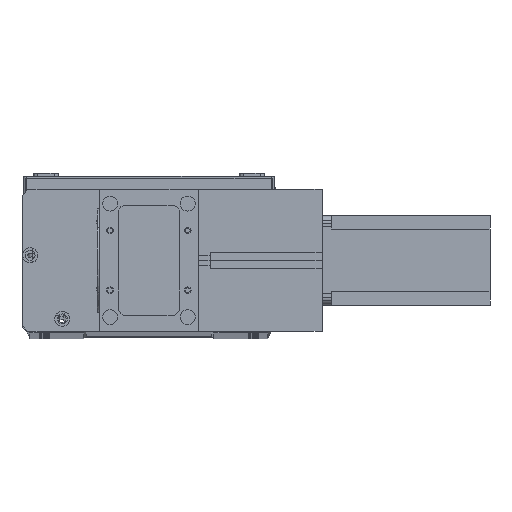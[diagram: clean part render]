
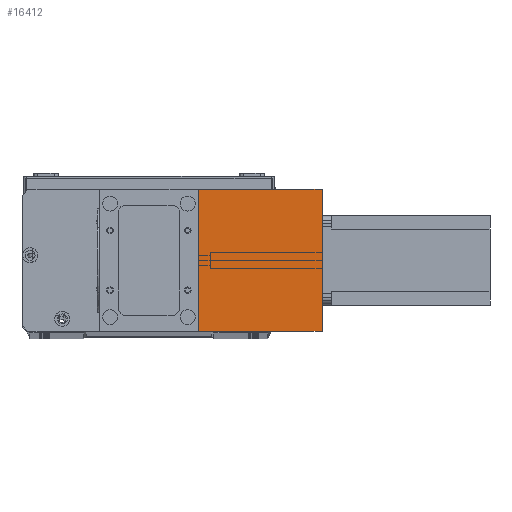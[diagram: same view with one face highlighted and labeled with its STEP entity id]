
A CAD part, top view. The second image highlights one B-rep face of the part: STEP entity #16412.
In plain terms, the highlighted planar face has unit normal (0, 0, 1) as drawn and (1, 0, 0) by its records, which use the part's own axes.
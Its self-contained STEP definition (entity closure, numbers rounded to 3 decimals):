
#1192 = CARTESIAN_POINT ( 'NONE',  ( 82., 95., 83. ) ) ;
#2100 = CARTESIAN_POINT ( 'NONE',  ( 82., 95., 0. ) ) ;
#2810 = ORIENTED_EDGE ( 'NONE', *, *, #8261, .F. ) ;
#2896 = EDGE_LOOP ( 'NONE', ( #28623, #14635, #2810, #16192 ) ) ;
#3169 = DIRECTION ( 'NONE',  ( 0., 0., 1. ) ) ;
#4116 = VECTOR ( 'NONE', #29217, 1000. ) ;
#4671 = LINE ( 'NONE', #15749, #10180 ) ;
#5082 = EDGE_CURVE ( 'NONE', #27960, #20199, #16516, .T. ) ;
#5859 = FACE_OUTER_BOUND ( 'NONE', #2896, .T. ) ;
#6231 = LINE ( 'NONE', #25209, #17137 ) ;
#6747 = VERTEX_POINT ( 'NONE', #1192 ) ;
#7616 = LINE ( 'NONE', #22341, #25210 ) ;
#8121 = EDGE_CURVE ( 'NONE', #6747, #20470, #7616, .T. ) ;
#8261 = EDGE_CURVE ( 'NONE', #27960, #6747, #4671, .T. ) ;
#9257 = AXIS2_PLACEMENT_3D ( 'NONE', #14791, #17143, #3169 ) ;
#10180 = VECTOR ( 'NONE', #15906, 1000. ) ;
#14635 = ORIENTED_EDGE ( 'NONE', *, *, #8121, .F. ) ;
#14791 = CARTESIAN_POINT ( 'NONE',  ( 82., 0., 83. ) ) ;
#14934 = CARTESIAN_POINT ( 'NONE',  ( 82., 0., 0. ) ) ;
#15661 = CARTESIAN_POINT ( 'NONE',  ( 82., 0., 83. ) ) ;
#15749 = CARTESIAN_POINT ( 'NONE',  ( 82., 0., 83. ) ) ;
#15906 = DIRECTION ( 'NONE',  ( 0., 1., 0. ) ) ;
#16192 = ORIENTED_EDGE ( 'NONE', *, *, #5082, .T. ) ;
#16412 = ADVANCED_FACE ( 'NONE', ( #5859 ), #28449, .F. ) ;
#16516 = LINE ( 'NONE', #29505, #4116 ) ;
#16791 = EDGE_CURVE ( 'NONE', #20199, #20470, #6231, .T. ) ;
#17137 = VECTOR ( 'NONE', #27497, 1000. ) ;
#17143 = DIRECTION ( 'NONE',  ( -1., 0., 0. ) ) ;
#20199 = VERTEX_POINT ( 'NONE', #14934 ) ;
#20470 = VERTEX_POINT ( 'NONE', #2100 ) ;
#21442 = DIRECTION ( 'NONE',  ( 0., 0., -1. ) ) ;
#22341 = CARTESIAN_POINT ( 'NONE',  ( 82., 95., 83. ) ) ;
#25209 = CARTESIAN_POINT ( 'NONE',  ( 82., 0., 0. ) ) ;
#25210 = VECTOR ( 'NONE', #21442, 1000. ) ;
#27497 = DIRECTION ( 'NONE',  ( 0., 1., 0. ) ) ;
#27960 = VERTEX_POINT ( 'NONE', #15661 ) ;
#28449 = PLANE ( 'NONE',  #9257 ) ;
#28623 = ORIENTED_EDGE ( 'NONE', *, *, #16791, .T. ) ;
#29217 = DIRECTION ( 'NONE',  ( 0., 0., -1. ) ) ;
#29505 = CARTESIAN_POINT ( 'NONE',  ( 82., 0., 83. ) ) ;
